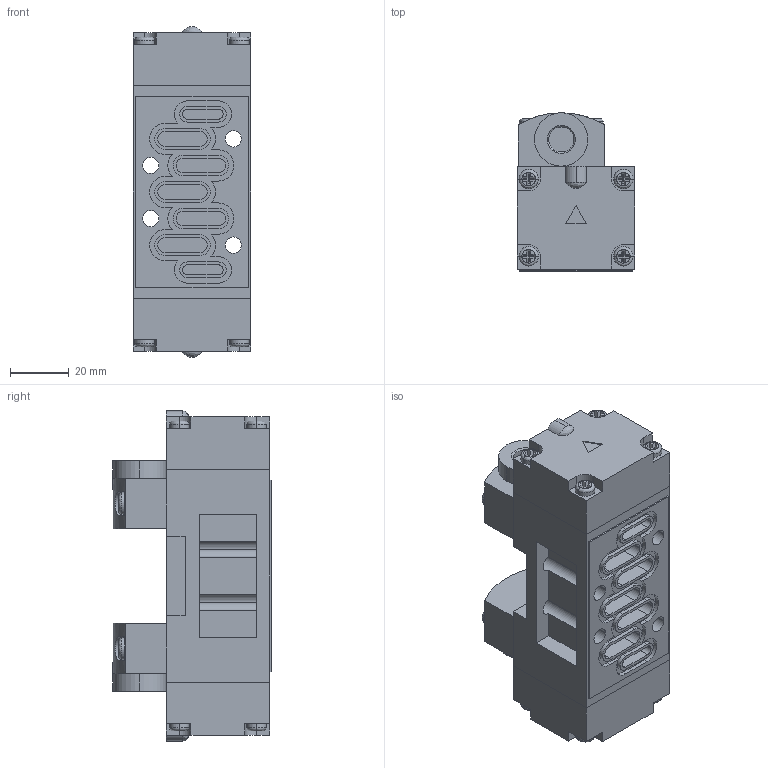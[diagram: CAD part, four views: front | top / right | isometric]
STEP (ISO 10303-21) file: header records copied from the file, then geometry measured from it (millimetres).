
FILE_DESCRIPTION (( 'STEP AP203' ), '1' );
FILE_NAME ('VB1-D-P.STEP', '2017-06-02T20:12:02', ( '' ), ( '' ), 'SwSTEP 2.0', 'SolidWorks 2016', '' );
FILE_SCHEMA (( 'CONFIG_CONTROL_DESIGN' ));
Length unit declared in the file: millimetre
Products named in the file (4): VB1-D-P Pilot_ﾃﾑ-ﾏ; VB1-D-P Semi Pilot_ﾃﾑ-ﾏ; VB1-D-P Body_ﾃﾑ-ﾏ; VB1-D-P
Assembly tree (5 placements, depth 2):
  VB1-D-P
    VB1-D-P Pilot_ﾃﾑ-ﾏ  x2
    VB1-D-P Semi Pilot_ﾃﾑ-ﾏ  x2
    VB1-D-P Body_ﾃﾑ-ﾏ
Bounding box: 40 x 53.6 x 112 mm (x, y, z)
Volume: 143919.1 mm3; surface area: 39631.4 mm2
Topology: 5 solids, 7 shells, 565 faces, 1519 edges, 1002 vertices
Faces by surface type: plane 402, cylinder 129, bspline 30, cone 4
Entity records: 12700 total; most frequent: CARTESIAN_POINT 2835, ORIENTED_EDGE 2030, DIRECTION 1871, EDGE_CURVE 1015, VERTEX_POINT 674, LINE 647, VECTOR 647, AXIS2_PLACEMENT_3D 612
